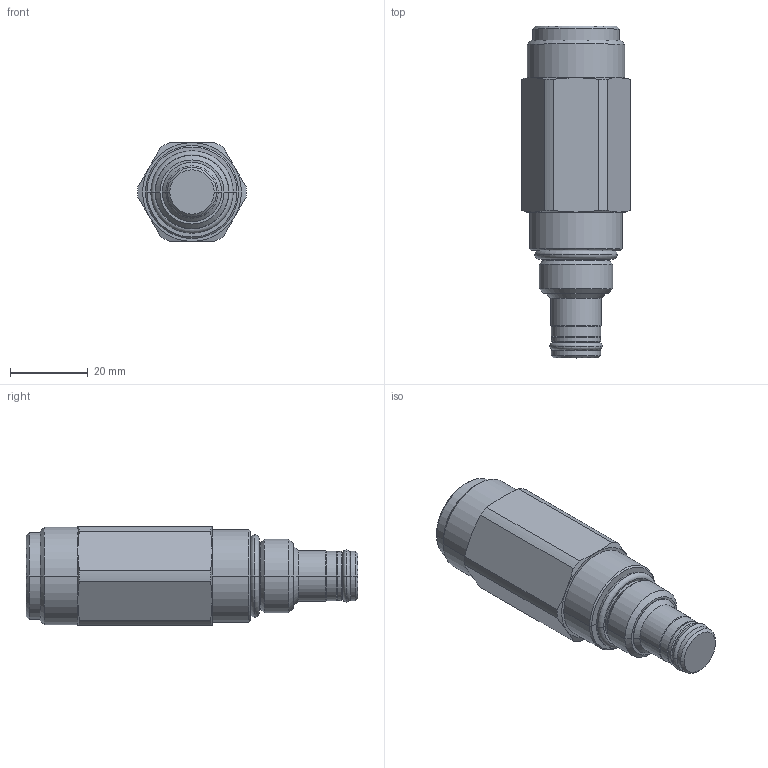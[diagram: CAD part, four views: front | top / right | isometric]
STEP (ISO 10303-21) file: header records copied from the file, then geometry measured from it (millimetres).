
FILE_DESCRIPTION((''),'2;1');
FILE_NAME('PRT0004','2009-03-21T',('JCS'),(''),'PRO/ENGINEER BY PARAMETRIC TECHNOLOGY CORPORATION, 2008510','PRO/ENGINEER BY PARAMETRIC TECHNOLOGY CORPORATION, 2008510','');
FILE_SCHEMA(('CONFIG_CONTROL_DESIGN'));
Length unit declared in the file: inch
Products named in the file (1): PRT0004
Bounding box: 27.94 x 85.27 x 25.4 mm (x, y, z)
Volume: 34363 mm3; surface area: 8032.5 mm2
Topology: 4 solids, 4 shells, 120 faces, 270 edges, 155 vertices
Faces by surface type: cone 34, cylinder 32, plane 24, torus 22, revolution 8
Entity records: 3704 total; most frequent: CARTESIAN_POINT 949, DIRECTION 620, ORIENTED_EDGE 536, EDGE_CURVE 268, AXIS2_PLACEMENT_3D 264, VERTEX_POINT 155, CIRCLE 152, EDGE_LOOP 125
